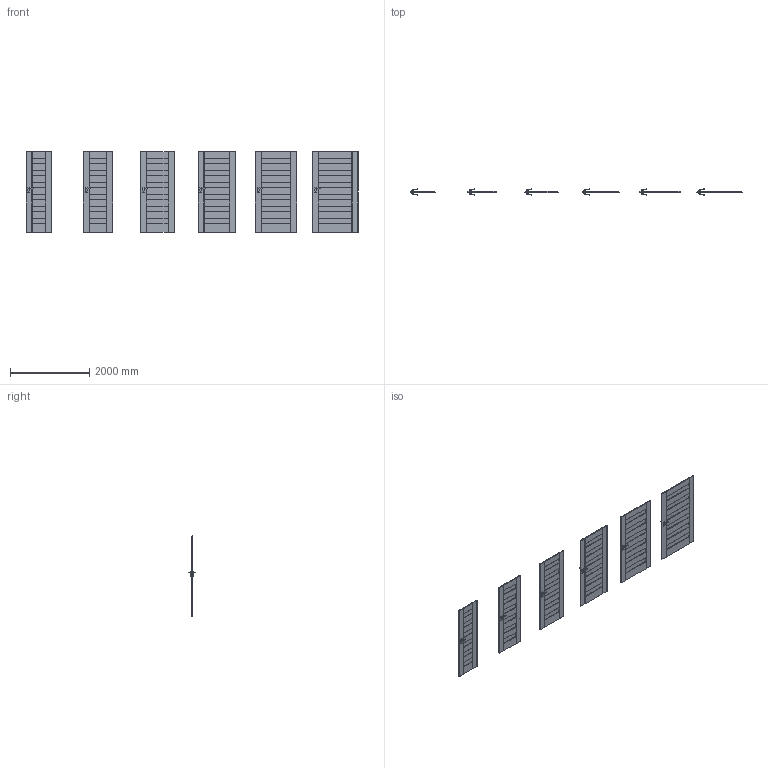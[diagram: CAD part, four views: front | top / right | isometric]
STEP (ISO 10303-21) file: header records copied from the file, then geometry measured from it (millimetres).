
FILE_DESCRIPTION(/* description */ (''),/* implementation_level */ '2;1');
FILE_NAME(/* name */ '049776_A_2-Skrzydło Koncept model C_ polska norma _PN__ przylgowe..stp',/* time_stamp */ '2024-03-14T14:44:59+01:00',/* author */ (''),/* organization */ (''),/* preprocessor_version */ 'ST-DEVELOPER v16',/* originating_system */ 'SIEMENS PLM Software NX 11.0',/* authorisation */ '');
FILE_SCHEMA (('AUTOMOTIVE_DESIGN { 1 0 10303 214 3 1 1 1 }'));
Products named in the file (1): bkni565444CFc8ms
Bounding box: 8394 x 153.27 x 2030.02 mm (x, y, z)
Volume: 314187786.4 mm3; surface area: 24846391.6 mm2
Topology: 30 solids, 30 shells, 2208 faces, 5846 edges, 3578 vertices
Faces by surface type: plane 972, cylinder 864, bspline 204, sphere 168
Entity records: 74305 total; most frequent: CARTESIAN_POINT 21361, ORIENTED_EDGE 11356, DIRECTION 10598, EDGE_CURVE 5678, AXIS2_PLACEMENT_3D 3649, VERTEX_POINT 3578, LINE 3300, VECTOR 3300
